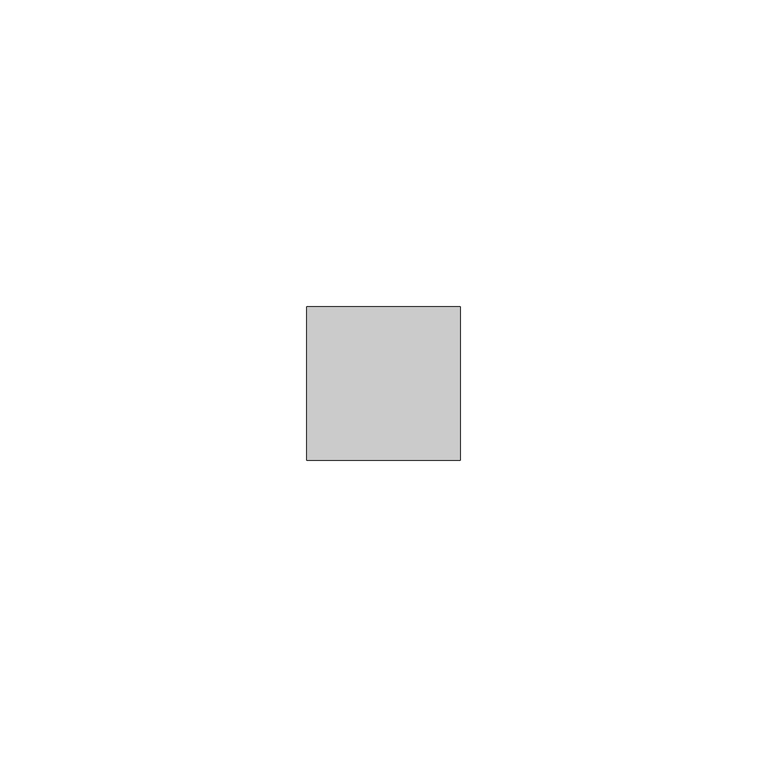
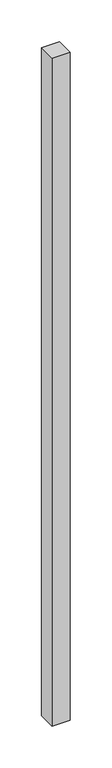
"""IFC4 building model written with IfcOpenShell, lengths in millimetres: member geometry, Obdélníková příčel : VERTI AERO."""

from ifc_helpers import new_model, si_unit, frame, origin, place, context, project, spatial, polyline, outline, extrude, source, transform, mapped, element, save


def member_3b857dee(model_context):
    return source(origin(), model_context, "Body", "SweptSolid", [
        extrude(outline(polyline([(-25.0, 12.5), (0.0, 12.5), (0.0, -12.5), (-25.0, -12.5), (-25.0, 12.5)])), frame((0.0, 0.0, -975.0), z_axis=(0.0, 0.0, 1.0), x_axis=(1.0, 0.0, 0.0)), (0.0, 0.0, 1.0), 975.0),
    ])


if __name__ == "__main__":
    model = new_model("IFC4")
    model_context = context("Model", 3, world=origin())
    ifc_project = project(units=[si_unit("LENGTHUNIT", "METRE", prefix="MILLI")], contexts=[model_context])
    site = spatial("IfcSite", under=ifc_project)
    building = spatial("IfcBuilding", under=site)
    placement = place(None, origin())
    member_shape = member_3b857dee(model_context)
    element("IfcMember", 1, ObjectType="Obdélníková příčel : VERTI AERO", at=placement, inside=building, context=model_context, shape_type="MappedRepresentation", body=[
        mapped(member_shape, transform((0.0, 0.0, 0.0), x_axis=(1.0, 0.0, 0.0), y_axis=(0.0, 1.0, 0.0), z_axis=(0.0, 0.0, 1.0))),
    ])
    save(model, "model.ifc")
